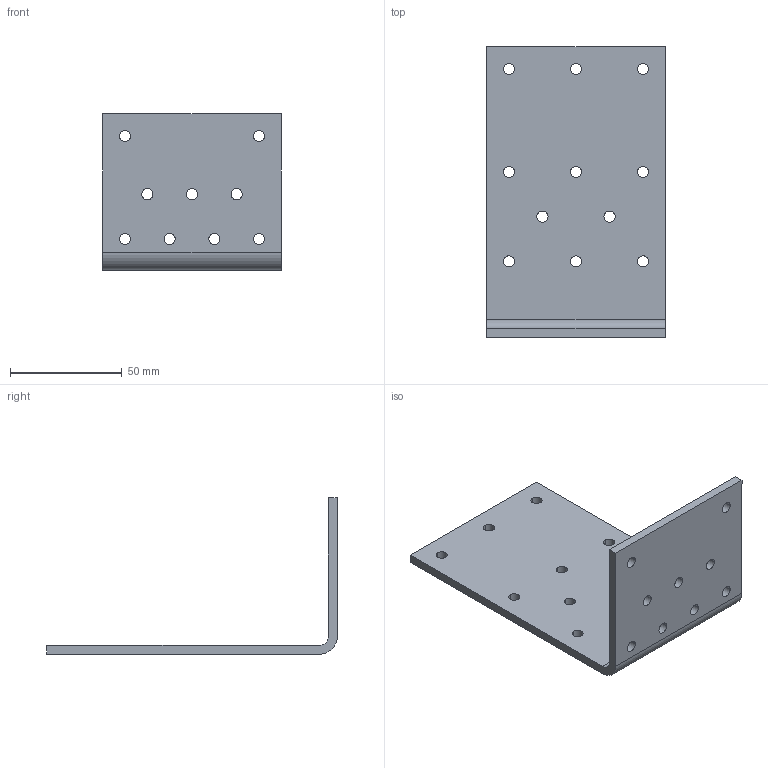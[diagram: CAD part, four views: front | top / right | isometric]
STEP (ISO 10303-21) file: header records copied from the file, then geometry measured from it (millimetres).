
FILE_DESCRIPTION (( 'STEP AP203' ), '1' );
FILE_NAME ('1884.STEP', '2020-01-14T15:18:36', ( '' ), ( '' ), 'SwSTEP 2.0', 'SolidWorks 2013', '' );
FILE_SCHEMA (( 'CONFIG_CONTROL_DESIGN' ));
Length unit declared in the file: millimetre
Products named in the file (1): 1884
Bounding box: 80 x 130 x 70 mm (x, y, z)
Volume: 60325.1 mm3; surface area: 33606.6 mm2
Topology: 1 solids, 1 shells, 50 faces, 144 edges, 96 vertices
Faces by surface type: cylinder 42, plane 8
Entity records: 1849 total; most frequent: DIRECTION 330, CARTESIAN_POINT 291, ORIENTED_EDGE 288, EDGE_CURVE 144, AXIS2_PLACEMENT_3D 135, VERTEX_POINT 96, EDGE_LOOP 90, CIRCLE 84
